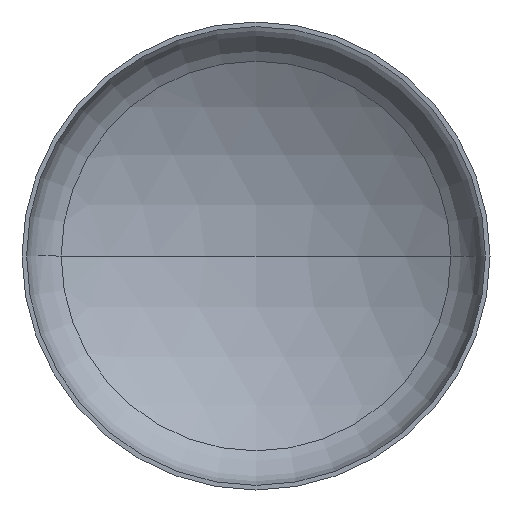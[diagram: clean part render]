
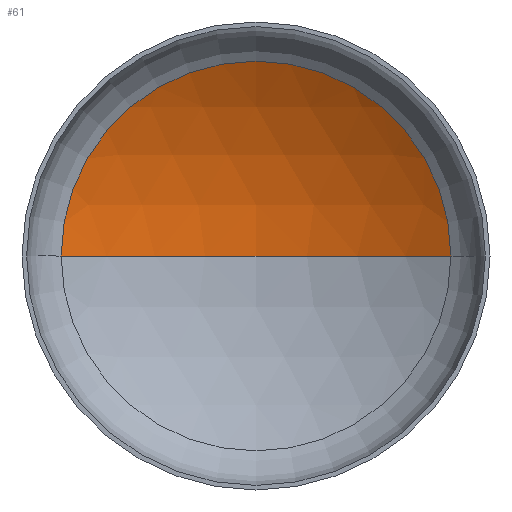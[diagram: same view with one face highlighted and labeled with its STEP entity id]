
A CAD part, front view. The second image highlights one B-rep face of the part: STEP entity #61.
In plain terms, the highlighted spherical face has radius 4000 mm.
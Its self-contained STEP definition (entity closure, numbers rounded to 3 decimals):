
#3 = EDGE_LOOP ( 'NONE', ( #93, #100, #50 ) ) ;
#20 = AXIS2_PLACEMENT_3D ( 'NONE', #225, #105, #163 ) ;
#34 = AXIS2_PLACEMENT_3D ( 'NONE', #145, #270, #188 ) ;
#37 = VERTEX_POINT ( 'NONE', #249 ) ;
#40 = CIRCLE ( 'NONE', #20, 4000. ) ;
#50 = ORIENTED_EDGE ( 'NONE', *, *, #358, .T. ) ;
#61 = ADVANCED_FACE ( 'NONE', ( #363 ), #117, .F. ) ;
#62 = AXIS2_PLACEMENT_3D ( 'NONE', #152, #320, #182 ) ;
#88 = VERTEX_POINT ( 'NONE', #337 ) ;
#91 = VERTEX_POINT ( 'NONE', #239 ) ;
#93 = ORIENTED_EDGE ( 'NONE', *, *, #346, .F. ) ;
#100 = ORIENTED_EDGE ( 'NONE', *, *, #360, .T. ) ;
#105 = DIRECTION ( 'NONE',  ( 0., 0., -1. ) ) ;
#117 = SPHERICAL_SURFACE ( 'NONE', #146, 4000. ) ;
#119 = CIRCLE ( 'NONE', #34, 2081.734 ) ;
#145 = CARTESIAN_POINT ( 'NONE',  ( 0., 807.505, 0. ) ) ;
#146 = AXIS2_PLACEMENT_3D ( 'NONE', #246, #283, #243 ) ;
#152 = CARTESIAN_POINT ( 'NONE',  ( 0., -2608.104, 0. ) ) ;
#163 = DIRECTION ( 'NONE',  ( -1., 0., 0. ) ) ;
#182 = DIRECTION ( 'NONE',  ( 1., 0., 0. ) ) ;
#188 = DIRECTION ( 'NONE',  ( 1., 0., 0. ) ) ;
#225 = CARTESIAN_POINT ( 'NONE',  ( 0., -2608.104, 0. ) ) ;
#239 = CARTESIAN_POINT ( 'NONE',  ( 2081.734, 807.505, 0. ) ) ;
#243 = DIRECTION ( 'NONE',  ( -1., 0., 0. ) ) ;
#246 = CARTESIAN_POINT ( 'NONE',  ( 0., -2608.104, 0. ) ) ;
#249 = CARTESIAN_POINT ( 'NONE',  ( -2081.734, 807.505, 0. ) ) ;
#270 = DIRECTION ( 'NONE',  ( 0., -1., 0. ) ) ;
#283 = DIRECTION ( 'NONE',  ( 0., 0., -1. ) ) ;
#320 = DIRECTION ( 'NONE',  ( 0., 0., 1. ) ) ;
#337 = CARTESIAN_POINT ( 'NONE',  ( 0., 1391.896, 0. ) ) ;
#346 = EDGE_CURVE ( 'NONE', #88, #37, #378, .T. ) ;
#358 = EDGE_CURVE ( 'NONE', #91, #37, #119, .T. ) ;
#360 = EDGE_CURVE ( 'NONE', #88, #91, #40, .T. ) ;
#363 = FACE_OUTER_BOUND ( 'NONE', #3, .T. ) ;
#378 = CIRCLE ( 'NONE', #62, 4000. ) ;
